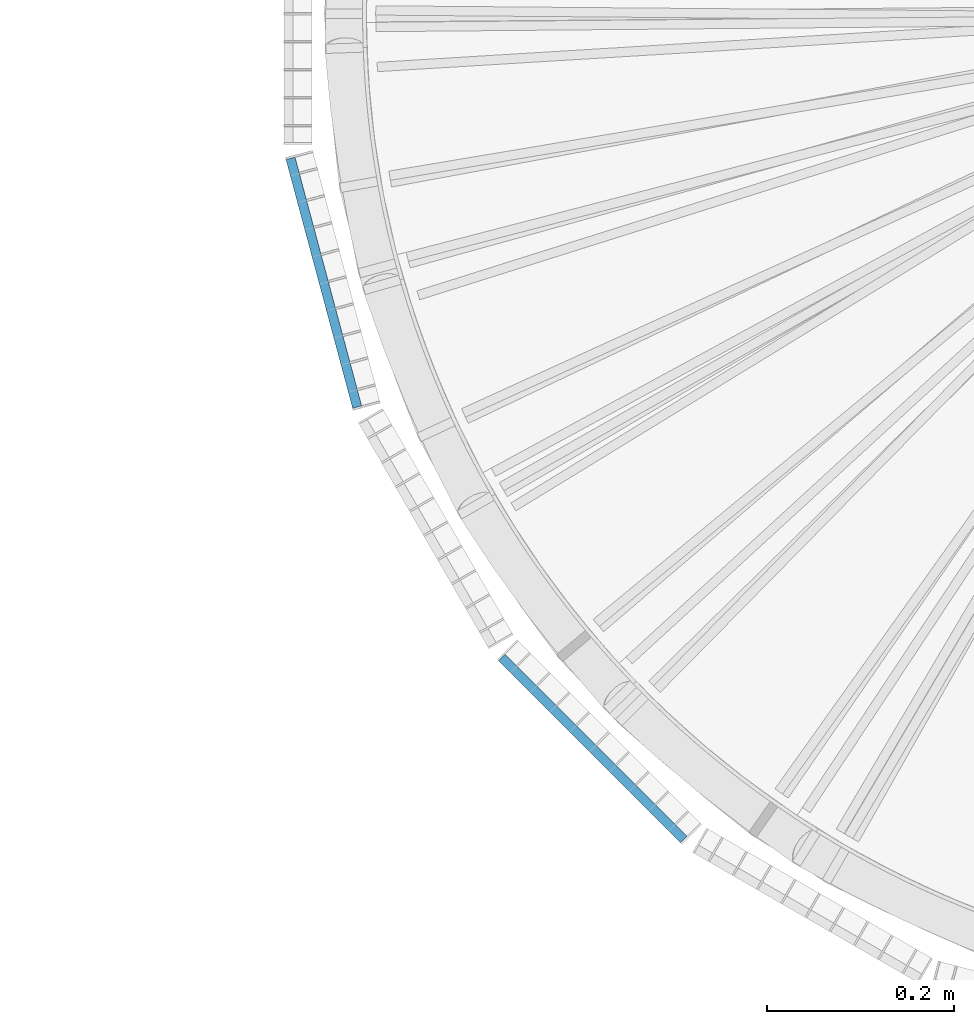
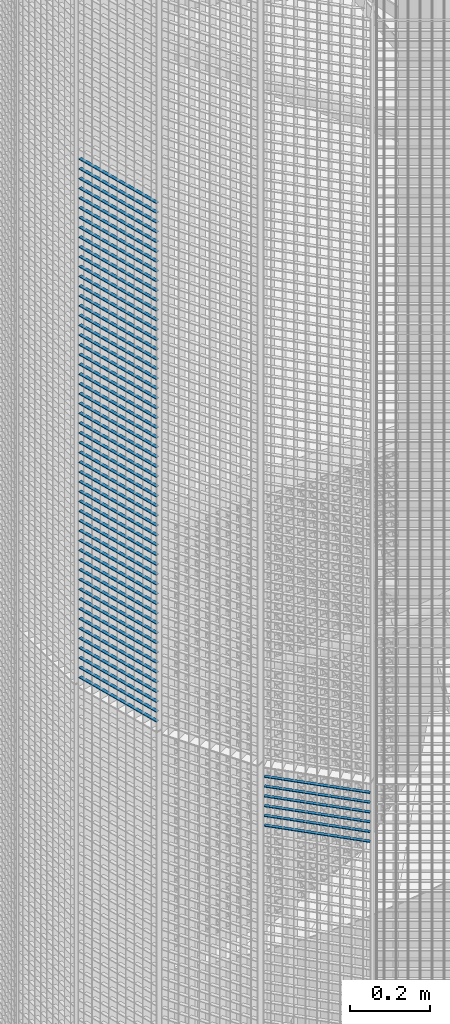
# One storey, part 112 of 1148: 60 beams, 2 elements without a shape of their own.
"""IFC2X3 building model written with IfcOpenShell, lengths in millimetres."""

from ifc_helpers import new_model, si_unit, frame, origin_with_axes, origin_2d_with_axis, place, context, subcontext, project, spatial, rectangle, extrude, material, type_object, element, aggregate, save


model = new_model("IFC2X3")

# Units and contexts
model_context = context("Model", 3, precision=1e-05, world=origin_with_axes())
body_context = subcontext(model_context, "Body", "Model", "MODEL_VIEW")
ifc_project = project(units=[si_unit("LENGTHUNIT", "METRE", prefix="MILLI"), si_unit("AREAUNIT", "SQUARE_METRE"), si_unit("VOLUMEUNIT", "CUBIC_METRE"), si_unit("MASSUNIT", "GRAM", prefix="KILO"), si_unit("TIMEUNIT", "SECOND"), si_unit("PLANEANGLEUNIT", "RADIAN"), si_unit("SOLIDANGLEUNIT", "STERADIAN"), si_unit("THERMODYNAMICTEMPERATUREUNIT", "DEGREE_CELSIUS"), si_unit("LUMINOUSINTENSITYUNIT", "LUMEN")], contexts=[model_context])

# Site, building, storey
site_placement = place(None, origin_with_axes())
site = spatial("IfcSite", under=ifc_project, at=site_placement, Name="Undefined", CompositionType="ELEMENT")
building_placement = place(site_placement, origin_with_axes())
building = spatial("IfcBuilding", under=site, at=building_placement, Name="Undefined", CompositionType="ELEMENT")
storey_placement = place(building_placement, origin_with_axes())
storey = spatial("IfcBuildingStorey", under=building, at=storey_placement, Name="Undefined", CompositionType="ELEMENT", Elevation=0.0)

# Assembly, beams
assembly_1_placement = place(storey_placement, origin_with_axes())
assembly_1 = element("IfcElementAssembly", 1, at=assembly_1_placement, inside=storey, Name="BORDURE", AssemblyPlace="NOTDEFINED", PredefinedType="NOTDEFINED")
ifc_material = material(Name="STEEL/S235JR")
beam_type = type_object("IfcBeamType", Name="PL2*10", PredefinedType="NOTDEFINED")
beam_1_placement = place(assembly_1_placement, frame((-1111.25508286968, -154.895926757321, 13620.0), z_axis=(-0.965925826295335, -0.258819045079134, 0.0), x_axis=(0.258819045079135, -0.965925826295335, 0.0)))
beam_1 = element("IfcBeam", 2, at=beam_1_placement, type_object=beam_type, material=ifc_material, Name="ENTRETOISE", context=body_context, shape_type="SweptSolid", body=[
    extrude(rectangle(XDim=2.0, YDim=10.0, at=origin_2d_with_axis()), frame((275.999999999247, 9.09494701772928e-13, 1.53210777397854e-14), z_axis=(-1.0, 0.0, 0.0), x_axis=(0.0, -1.0, 0.0)), (0.0, 0.0, 1.0), 276.0),
])
beam_2_placement = place(assembly_1_placement, frame((-1111.25508286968, -154.895926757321, 13590.0), z_axis=(-0.965925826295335, -0.258819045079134, 0.0), x_axis=(0.258819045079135, -0.965925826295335, 0.0)))
beam_2 = element("IfcBeam", 3, at=beam_2_placement, type_object=beam_type, material=ifc_material, Name="ENTRETOISE", context=body_context, shape_type="SweptSolid", body=[
    extrude(rectangle(XDim=2.0, YDim=10.0, at=origin_2d_with_axis()), frame((275.999999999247, 9.09494701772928e-13, 1.53210777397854e-14), z_axis=(-1.0, 0.0, 0.0), x_axis=(0.0, -1.0, 0.0)), (0.0, 0.0, 1.0), 276.0),
])
beam_3_placement = place(assembly_1_placement, frame((-1111.25508286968, -154.895926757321, 13560.0), z_axis=(-0.965925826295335, -0.258819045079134, 0.0), x_axis=(0.258819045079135, -0.965925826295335, 0.0)))
beam_3 = element("IfcBeam", 4, at=beam_3_placement, type_object=beam_type, material=ifc_material, Name="ENTRETOISE", context=body_context, shape_type="SweptSolid", body=[
    extrude(rectangle(XDim=2.0, YDim=10.0, at=origin_2d_with_axis()), frame((275.999999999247, 9.09494701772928e-13, 1.53210777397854e-14), z_axis=(-1.0, 0.0, 0.0), x_axis=(0.0, -1.0, 0.0)), (0.0, 0.0, 1.0), 276.0),
])
beam_4_placement = place(assembly_1_placement, frame((-1111.25508286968, -154.895926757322, 13530.0), z_axis=(-0.965925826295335, -0.258819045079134, 0.0), x_axis=(0.258819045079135, -0.965925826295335, 0.0)))
beam_4 = element("IfcBeam", 5, at=beam_4_placement, type_object=beam_type, material=ifc_material, Name="ENTRETOISE", context=body_context, shape_type="SweptSolid", body=[
    extrude(rectangle(XDim=2.0, YDim=10.0, at=origin_2d_with_axis()), frame((275.999999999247, 9.09494701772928e-13, 1.53210777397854e-14), z_axis=(-1.0, 0.0, 0.0), x_axis=(0.0, -1.0, 0.0)), (0.0, 0.0, 1.0), 276.0),
])
beam_5_placement = place(assembly_1_placement, frame((-1111.25508286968, -154.895926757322, 13500.0), z_axis=(-0.965925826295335, -0.258819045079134, 0.0), x_axis=(0.258819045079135, -0.965925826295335, 0.0)))
beam_5 = element("IfcBeam", 6, at=beam_5_placement, type_object=beam_type, material=ifc_material, Name="ENTRETOISE", context=body_context, shape_type="SweptSolid", body=[
    extrude(rectangle(XDim=2.0, YDim=10.0, at=origin_2d_with_axis()), frame((275.999999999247, 9.09494701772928e-13, 1.53210777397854e-14), z_axis=(-1.0, 0.0, 0.0), x_axis=(0.0, -1.0, 0.0)), (0.0, 0.0, 1.0), 276.0),
])
beam_6_placement = place(assembly_1_placement, frame((-1111.25508286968, -154.895926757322, 13470.0), z_axis=(-0.965925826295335, -0.258819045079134, 0.0), x_axis=(0.258819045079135, -0.965925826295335, 0.0)))
beam_6 = element("IfcBeam", 7, at=beam_6_placement, type_object=beam_type, material=ifc_material, Name="ENTRETOISE", context=body_context, shape_type="SweptSolid", body=[
    extrude(rectangle(XDim=2.0, YDim=10.0, at=origin_2d_with_axis()), frame((275.999999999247, 9.09494701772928e-13, 1.53210777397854e-14), z_axis=(-1.0, 0.0, 0.0), x_axis=(0.0, -1.0, 0.0)), (0.0, 0.0, 1.0), 276.0),
])
beam_7_placement = place(assembly_1_placement, frame((-1111.25508286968, -154.895926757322, 13440.0), z_axis=(-0.965925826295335, -0.258819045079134, 0.0), x_axis=(0.258819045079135, -0.965925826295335, 0.0)))
beam_7 = element("IfcBeam", 8, at=beam_7_placement, type_object=beam_type, material=ifc_material, Name="ENTRETOISE", context=body_context, shape_type="SweptSolid", body=[
    extrude(rectangle(XDim=2.0, YDim=10.0, at=origin_2d_with_axis()), frame((275.999999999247, 9.09494701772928e-13, 1.53210777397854e-14), z_axis=(-1.0, 0.0, 0.0), x_axis=(0.0, -1.0, 0.0)), (0.0, 0.0, 1.0), 276.0),
])
beam_8_placement = place(assembly_1_placement, frame((-1111.25508286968, -154.895926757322, 13410.0), z_axis=(-0.965925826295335, -0.258819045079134, 0.0), x_axis=(0.258819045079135, -0.965925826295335, 0.0)))
beam_8 = element("IfcBeam", 9, at=beam_8_placement, type_object=beam_type, material=ifc_material, Name="ENTRETOISE", context=body_context, shape_type="SweptSolid", body=[
    extrude(rectangle(XDim=2.0, YDim=10.0, at=origin_2d_with_axis()), frame((275.999999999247, 9.09494701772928e-13, 1.53210777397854e-14), z_axis=(-1.0, 0.0, 0.0), x_axis=(0.0, -1.0, 0.0)), (0.0, 0.0, 1.0), 276.0),
])
beam_9_placement = place(assembly_1_placement, frame((-1111.25508286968, -154.895926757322, 13380.0), z_axis=(-0.965925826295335, -0.258819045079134, 0.0), x_axis=(0.258819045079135, -0.965925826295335, 0.0)))
beam_9 = element("IfcBeam", 10, at=beam_9_placement, type_object=beam_type, material=ifc_material, Name="ENTRETOISE", context=body_context, shape_type="SweptSolid", body=[
    extrude(rectangle(XDim=2.0, YDim=10.0, at=origin_2d_with_axis()), frame((275.999999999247, 9.09494701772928e-13, 1.53210777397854e-14), z_axis=(-1.0, 0.0, 0.0), x_axis=(0.0, -1.0, 0.0)), (0.0, 0.0, 1.0), 276.0),
])
beam_10_placement = place(assembly_1_placement, frame((-1111.25508286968, -154.895926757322, 13350.0), z_axis=(-0.965925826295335, -0.258819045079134, 0.0), x_axis=(0.258819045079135, -0.965925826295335, 0.0)))
beam_10 = element("IfcBeam", 11, at=beam_10_placement, type_object=beam_type, material=ifc_material, Name="ENTRETOISE", context=body_context, shape_type="SweptSolid", body=[
    extrude(rectangle(XDim=2.0, YDim=10.0, at=origin_2d_with_axis()), frame((275.999999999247, 9.09494701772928e-13, 1.53210777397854e-14), z_axis=(-1.0, 0.0, 0.0), x_axis=(0.0, -1.0, 0.0)), (0.0, 0.0, 1.0), 276.0),
])
beam_11_placement = place(assembly_1_placement, frame((-1111.25508286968, -154.895926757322, 13320.0), z_axis=(-0.965925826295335, -0.258819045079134, 0.0), x_axis=(0.258819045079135, -0.965925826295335, 0.0)))
beam_11 = element("IfcBeam", 12, at=beam_11_placement, type_object=beam_type, material=ifc_material, Name="ENTRETOISE", context=body_context, shape_type="SweptSolid", body=[
    extrude(rectangle(XDim=2.0, YDim=10.0, at=origin_2d_with_axis()), frame((275.999999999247, 9.09494701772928e-13, 1.53210777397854e-14), z_axis=(-1.0, 0.0, 0.0), x_axis=(0.0, -1.0, 0.0)), (0.0, 0.0, 1.0), 276.0),
])
beam_12_placement = place(assembly_1_placement, frame((-1111.25508286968, -154.895926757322, 13290.0), z_axis=(-0.965925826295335, -0.258819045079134, 0.0), x_axis=(0.258819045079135, -0.965925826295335, 0.0)))
beam_12 = element("IfcBeam", 13, at=beam_12_placement, type_object=beam_type, material=ifc_material, Name="ENTRETOISE", context=body_context, shape_type="SweptSolid", body=[
    extrude(rectangle(XDim=2.0, YDim=10.0, at=origin_2d_with_axis()), frame((275.999999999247, 9.09494701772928e-13, 1.53210777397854e-14), z_axis=(-1.0, 0.0, 0.0), x_axis=(0.0, -1.0, 0.0)), (0.0, 0.0, 1.0), 276.0),
])
beam_13_placement = place(assembly_1_placement, frame((-1111.25508286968, -154.895926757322, 13260.0), z_axis=(-0.965925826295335, -0.258819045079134, 0.0), x_axis=(0.258819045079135, -0.965925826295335, 0.0)))
beam_13 = element("IfcBeam", 14, at=beam_13_placement, type_object=beam_type, material=ifc_material, Name="ENTRETOISE", context=body_context, shape_type="SweptSolid", body=[
    extrude(rectangle(XDim=2.0, YDim=10.0, at=origin_2d_with_axis()), frame((275.999999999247, 9.09494701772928e-13, 1.53210777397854e-14), z_axis=(-1.0, 0.0, 0.0), x_axis=(0.0, -1.0, 0.0)), (0.0, 0.0, 1.0), 276.0),
])
beam_14_placement = place(assembly_1_placement, frame((-1111.25508286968, -154.895926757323, 13230.0), z_axis=(-0.965925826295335, -0.258819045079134, 0.0), x_axis=(0.258819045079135, -0.965925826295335, 0.0)))
beam_14 = element("IfcBeam", 15, at=beam_14_placement, type_object=beam_type, material=ifc_material, Name="ENTRETOISE", context=body_context, shape_type="SweptSolid", body=[
    extrude(rectangle(XDim=2.0, YDim=10.0, at=origin_2d_with_axis()), frame((275.999999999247, 9.09494701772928e-13, 1.53210777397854e-14), z_axis=(-1.0, 0.0, 0.0), x_axis=(0.0, -1.0, 0.0)), (0.0, 0.0, 1.0), 276.0),
])
beam_15_placement = place(assembly_1_placement, frame((-1111.25508286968, -154.895926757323, 13200.0), z_axis=(-0.965925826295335, -0.258819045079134, 0.0), x_axis=(0.258819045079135, -0.965925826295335, 0.0)))
beam_15 = element("IfcBeam", 16, at=beam_15_placement, type_object=beam_type, material=ifc_material, Name="ENTRETOISE", context=body_context, shape_type="SweptSolid", body=[
    extrude(rectangle(XDim=2.0, YDim=10.0, at=origin_2d_with_axis()), frame((275.999999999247, 9.09494701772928e-13, 1.53210777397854e-14), z_axis=(-1.0, 0.0, 0.0), x_axis=(0.0, -1.0, 0.0)), (0.0, 0.0, 1.0), 276.0),
])
beam_16_placement = place(assembly_1_placement, frame((-1111.25508286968, -154.895926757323, 13170.0), z_axis=(-0.965925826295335, -0.258819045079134, 0.0), x_axis=(0.258819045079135, -0.965925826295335, 0.0)))
beam_16 = element("IfcBeam", 17, at=beam_16_placement, type_object=beam_type, material=ifc_material, Name="ENTRETOISE", context=body_context, shape_type="SweptSolid", body=[
    extrude(rectangle(XDim=2.0, YDim=10.0, at=origin_2d_with_axis()), frame((275.999999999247, 9.09494701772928e-13, 1.53210777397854e-14), z_axis=(-1.0, 0.0, 0.0), x_axis=(0.0, -1.0, 0.0)), (0.0, 0.0, 1.0), 276.0),
])
beam_17_placement = place(assembly_1_placement, frame((-1111.25508286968, -154.895926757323, 13140.0), z_axis=(-0.965925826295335, -0.258819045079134, 0.0), x_axis=(0.258819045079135, -0.965925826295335, 0.0)))
beam_17 = element("IfcBeam", 18, at=beam_17_placement, type_object=beam_type, material=ifc_material, Name="ENTRETOISE", context=body_context, shape_type="SweptSolid", body=[
    extrude(rectangle(XDim=2.0, YDim=10.0, at=origin_2d_with_axis()), frame((275.999999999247, 9.09494701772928e-13, 1.53210777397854e-14), z_axis=(-1.0, 0.0, 0.0), x_axis=(0.0, -1.0, 0.0)), (0.0, 0.0, 1.0), 276.0),
])
beam_18_placement = place(assembly_1_placement, frame((-1111.25508286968, -154.895926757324, 12720.0), z_axis=(-0.965925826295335, -0.258819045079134, 0.0), x_axis=(0.258819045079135, -0.965925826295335, 0.0)))
beam_18 = element("IfcBeam", 19, at=beam_18_placement, type_object=beam_type, material=ifc_material, Name="ENTRETOISE", context=body_context, shape_type="SweptSolid", body=[
    extrude(rectangle(XDim=2.0, YDim=10.0, at=origin_2d_with_axis()), frame((275.999999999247, 9.09494701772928e-13, 1.53210777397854e-14), z_axis=(-1.0, 0.0, 0.0), x_axis=(0.0, -1.0, 0.0)), (0.0, 0.0, 1.0), 276.0),
])
beam_19_placement = place(assembly_1_placement, frame((-1111.25508286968, -154.895926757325, 12690.0), z_axis=(-0.965925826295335, -0.258819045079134, 0.0), x_axis=(0.258819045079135, -0.965925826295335, 0.0)))
beam_19 = element("IfcBeam", 20, at=beam_19_placement, type_object=beam_type, material=ifc_material, Name="ENTRETOISE", context=body_context, shape_type="SweptSolid", body=[
    extrude(rectangle(XDim=2.0, YDim=10.0, at=origin_2d_with_axis()), frame((275.999999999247, 9.09494701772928e-13, 1.53210777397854e-14), z_axis=(-1.0, 0.0, 0.0), x_axis=(0.0, -1.0, 0.0)), (0.0, 0.0, 1.0), 276.0),
])
beam_20_placement = place(assembly_1_placement, frame((-1111.25508286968, -154.895926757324, 12750.0), z_axis=(-0.965925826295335, -0.258819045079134, 0.0), x_axis=(0.258819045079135, -0.965925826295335, 0.0)))
beam_20 = element("IfcBeam", 21, at=beam_20_placement, type_object=beam_type, material=ifc_material, Name="ENTRETOISE", context=body_context, shape_type="SweptSolid", body=[
    extrude(rectangle(XDim=2.0, YDim=10.0, at=origin_2d_with_axis()), frame((275.999999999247, 9.09494701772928e-13, 1.53210777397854e-14), z_axis=(-1.0, 0.0, 0.0), x_axis=(0.0, -1.0, 0.0)), (0.0, 0.0, 1.0), 276.0),
])
beam_21_placement = place(assembly_1_placement, frame((-1111.25508286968, -154.895926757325, 12660.0), z_axis=(-0.965925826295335, -0.258819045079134, 0.0), x_axis=(0.258819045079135, -0.965925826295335, 0.0)))
beam_21 = element("IfcBeam", 22, at=beam_21_placement, type_object=beam_type, material=ifc_material, Name="ENTRETOISE", context=body_context, shape_type="SweptSolid", body=[
    extrude(rectangle(XDim=2.0, YDim=10.0, at=origin_2d_with_axis()), frame((275.999999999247, 9.09494701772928e-13, 1.53210777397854e-14), z_axis=(-1.0, 0.0, 0.0), x_axis=(0.0, -1.0, 0.0)), (0.0, 0.0, 1.0), 276.0),
])
beam_22_placement = place(assembly_1_placement, frame((-1111.25508286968, -154.895926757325, 12630.0), z_axis=(-0.965925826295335, -0.258819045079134, 0.0), x_axis=(0.258819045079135, -0.965925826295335, 0.0)))
beam_22 = element("IfcBeam", 23, at=beam_22_placement, type_object=beam_type, material=ifc_material, Name="ENTRETOISE", context=body_context, shape_type="SweptSolid", body=[
    extrude(rectangle(XDim=2.0, YDim=10.0, at=origin_2d_with_axis()), frame((275.999999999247, 9.09494701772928e-13, 1.53210777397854e-14), z_axis=(-1.0, 0.0, 0.0), x_axis=(0.0, -1.0, 0.0)), (0.0, 0.0, 1.0), 276.0),
])
beam_23_placement = place(assembly_1_placement, frame((-1111.25508286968, -154.895926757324, 12780.0), z_axis=(-0.965925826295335, -0.258819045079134, 0.0), x_axis=(0.258819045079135, -0.965925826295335, 0.0)))
beam_23 = element("IfcBeam", 24, at=beam_23_placement, type_object=beam_type, material=ifc_material, Name="ENTRETOISE", context=body_context, shape_type="SweptSolid", body=[
    extrude(rectangle(XDim=2.0, YDim=10.0, at=origin_2d_with_axis()), frame((275.999999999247, 9.09494701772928e-13, 1.53210777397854e-14), z_axis=(-1.0, 0.0, 0.0), x_axis=(0.0, -1.0, 0.0)), (0.0, 0.0, 1.0), 276.0),
])
beam_24_placement = place(assembly_1_placement, frame((-1111.25508286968, -154.895926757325, 12600.0), z_axis=(-0.965925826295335, -0.258819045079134, 0.0), x_axis=(0.258819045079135, -0.965925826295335, 0.0)))
beam_24 = element("IfcBeam", 25, at=beam_24_placement, type_object=beam_type, material=ifc_material, Name="ENTRETOISE", context=body_context, shape_type="SweptSolid", body=[
    extrude(rectangle(XDim=2.0, YDim=10.0, at=origin_2d_with_axis()), frame((275.999999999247, 9.09494701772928e-13, 1.53210777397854e-14), z_axis=(-1.0, 0.0, 0.0), x_axis=(0.0, -1.0, 0.0)), (0.0, 0.0, 1.0), 276.0),
])
beam_25_placement = place(assembly_1_placement, frame((-1111.25508286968, -154.895926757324, 12810.0), z_axis=(-0.965925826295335, -0.258819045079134, 0.0), x_axis=(0.258819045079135, -0.965925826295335, 0.0)))
beam_25 = element("IfcBeam", 26, at=beam_25_placement, type_object=beam_type, material=ifc_material, Name="ENTRETOISE", context=body_context, shape_type="SweptSolid", body=[
    extrude(rectangle(XDim=2.0, YDim=10.0, at=origin_2d_with_axis()), frame((275.999999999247, 9.09494701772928e-13, 1.53210777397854e-14), z_axis=(-1.0, 0.0, 0.0), x_axis=(0.0, -1.0, 0.0)), (0.0, 0.0, 1.0), 276.0),
])
beam_26_placement = place(assembly_1_placement, frame((-1111.25508286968, -154.895926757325, 12570.0), z_axis=(-0.965925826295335, -0.258819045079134, 0.0), x_axis=(0.258819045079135, -0.965925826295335, 0.0)))
beam_26 = element("IfcBeam", 27, at=beam_26_placement, type_object=beam_type, material=ifc_material, Name="ENTRETOISE", context=body_context, shape_type="SweptSolid", body=[
    extrude(rectangle(XDim=2.0, YDim=10.0, at=origin_2d_with_axis()), frame((275.999999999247, 9.09494701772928e-13, 1.53210777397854e-14), z_axis=(-1.0, 0.0, 0.0), x_axis=(0.0, -1.0, 0.0)), (0.0, 0.0, 1.0), 276.0),
])
beam_27_placement = place(assembly_1_placement, frame((-1111.25508286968, -154.895926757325, 12540.0), z_axis=(-0.965925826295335, -0.258819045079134, 0.0), x_axis=(0.258819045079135, -0.965925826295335, 0.0)))
beam_27 = element("IfcBeam", 28, at=beam_27_placement, type_object=beam_type, material=ifc_material, Name="ENTRETOISE", context=body_context, shape_type="SweptSolid", body=[
    extrude(rectangle(XDim=2.0, YDim=10.0, at=origin_2d_with_axis()), frame((275.999999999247, 9.09494701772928e-13, 1.53210777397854e-14), z_axis=(-1.0, 0.0, 0.0), x_axis=(0.0, -1.0, 0.0)), (0.0, 0.0, 1.0), 276.0),
])
beam_28_placement = place(assembly_1_placement, frame((-1111.25508286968, -154.895926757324, 12840.0), z_axis=(-0.965925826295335, -0.258819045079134, 0.0), x_axis=(0.258819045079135, -0.965925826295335, 0.0)))
beam_28 = element("IfcBeam", 29, at=beam_28_placement, type_object=beam_type, material=ifc_material, Name="ENTRETOISE", context=body_context, shape_type="SweptSolid", body=[
    extrude(rectangle(XDim=2.0, YDim=10.0, at=origin_2d_with_axis()), frame((275.999999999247, 9.09494701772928e-13, 1.53210777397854e-14), z_axis=(-1.0, 0.0, 0.0), x_axis=(0.0, -1.0, 0.0)), (0.0, 0.0, 1.0), 276.0),
])
beam_29_placement = place(assembly_1_placement, frame((-1111.25508286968, -154.895926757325, 12510.0), z_axis=(-0.965925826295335, -0.258819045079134, 0.0), x_axis=(0.258819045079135, -0.965925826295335, 0.0)))
beam_29 = element("IfcBeam", 30, at=beam_29_placement, type_object=beam_type, material=ifc_material, Name="ENTRETOISE", context=body_context, shape_type="SweptSolid", body=[
    extrude(rectangle(XDim=2.0, YDim=10.0, at=origin_2d_with_axis()), frame((275.999999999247, 9.09494701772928e-13, 1.53210777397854e-14), z_axis=(-1.0, 0.0, 0.0), x_axis=(0.0, -1.0, 0.0)), (0.0, 0.0, 1.0), 276.0),
])
beam_30_placement = place(assembly_1_placement, frame((-1111.25508286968, -154.895926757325, 12480.0), z_axis=(-0.965925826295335, -0.258819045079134, 0.0), x_axis=(0.258819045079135, -0.965925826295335, 0.0)))
beam_30 = element("IfcBeam", 31, at=beam_30_placement, type_object=beam_type, material=ifc_material, Name="ENTRETOISE", context=body_context, shape_type="SweptSolid", body=[
    extrude(rectangle(XDim=2.0, YDim=10.0, at=origin_2d_with_axis()), frame((275.999999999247, 9.09494701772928e-13, 1.53210777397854e-14), z_axis=(-1.0, 0.0, 0.0), x_axis=(0.0, -1.0, 0.0)), (0.0, 0.0, 1.0), 276.0),
])
beam_31_placement = place(assembly_1_placement, frame((-1111.25508286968, -154.895926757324, 12870.0), z_axis=(-0.965925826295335, -0.258819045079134, 0.0), x_axis=(0.258819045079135, -0.965925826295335, 0.0)))
beam_31 = element("IfcBeam", 32, at=beam_31_placement, type_object=beam_type, material=ifc_material, Name="ENTRETOISE", context=body_context, shape_type="SweptSolid", body=[
    extrude(rectangle(XDim=2.0, YDim=10.0, at=origin_2d_with_axis()), frame((275.999999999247, 9.09494701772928e-13, 1.53210777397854e-14), z_axis=(-1.0, 0.0, 0.0), x_axis=(0.0, -1.0, 0.0)), (0.0, 0.0, 1.0), 276.0),
])
beam_32_placement = place(assembly_1_placement, frame((-1111.25508286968, -154.895926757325, 12450.0), z_axis=(-0.965925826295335, -0.258819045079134, 0.0), x_axis=(0.258819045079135, -0.965925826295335, 0.0)))
beam_32 = element("IfcBeam", 33, at=beam_32_placement, type_object=beam_type, material=ifc_material, Name="ENTRETOISE", context=body_context, shape_type="SweptSolid", body=[
    extrude(rectangle(XDim=2.0, YDim=10.0, at=origin_2d_with_axis()), frame((275.999999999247, 9.09494701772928e-13, 1.53210777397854e-14), z_axis=(-1.0, 0.0, 0.0), x_axis=(0.0, -1.0, 0.0)), (0.0, 0.0, 1.0), 276.0),
])
beam_33_placement = place(assembly_1_placement, frame((-1111.25508286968, -154.895926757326, 12420.0), z_axis=(-0.965925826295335, -0.258819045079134, 0.0), x_axis=(0.258819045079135, -0.965925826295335, 0.0)))
beam_33 = element("IfcBeam", 34, at=beam_33_placement, type_object=beam_type, material=ifc_material, Name="ENTRETOISE", context=body_context, shape_type="SweptSolid", body=[
    extrude(rectangle(XDim=2.0, YDim=10.0, at=origin_2d_with_axis()), frame((275.999999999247, 9.09494701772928e-13, 1.53210777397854e-14), z_axis=(-1.0, 0.0, 0.0), x_axis=(0.0, -1.0, 0.0)), (0.0, 0.0, 1.0), 276.0),
])
beam_34_placement = place(assembly_1_placement, frame((-1111.25508286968, -154.895926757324, 12900.0), z_axis=(-0.965925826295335, -0.258819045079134, 0.0), x_axis=(0.258819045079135, -0.965925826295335, 0.0)))
beam_34 = element("IfcBeam", 35, at=beam_34_placement, type_object=beam_type, material=ifc_material, Name="ENTRETOISE", context=body_context, shape_type="SweptSolid", body=[
    extrude(rectangle(XDim=2.0, YDim=10.0, at=origin_2d_with_axis()), frame((275.999999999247, 9.09494701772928e-13, 1.53210777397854e-14), z_axis=(-1.0, 0.0, 0.0), x_axis=(0.0, -1.0, 0.0)), (0.0, 0.0, 1.0), 276.0),
])
beam_35_placement = place(assembly_1_placement, frame((-1111.25508286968, -154.895926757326, 12390.0), z_axis=(-0.965925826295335, -0.258819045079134, 0.0), x_axis=(0.258819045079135, -0.965925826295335, 0.0)))
beam_35 = element("IfcBeam", 36, at=beam_35_placement, type_object=beam_type, material=ifc_material, Name="ENTRETOISE", context=body_context, shape_type="SweptSolid", body=[
    extrude(rectangle(XDim=2.0, YDim=10.0, at=origin_2d_with_axis()), frame((275.999999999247, 9.09494701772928e-13, 1.53210777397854e-14), z_axis=(-1.0, 0.0, 0.0), x_axis=(0.0, -1.0, 0.0)), (0.0, 0.0, 1.0), 276.0),
])
beam_36_placement = place(assembly_1_placement, frame((-1111.25508286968, -154.895926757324, 12930.0), z_axis=(-0.965925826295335, -0.258819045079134, 0.0), x_axis=(0.258819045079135, -0.965925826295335, 0.0)))
beam_36 = element("IfcBeam", 37, at=beam_36_placement, type_object=beam_type, material=ifc_material, Name="ENTRETOISE", context=body_context, shape_type="SweptSolid", body=[
    extrude(rectangle(XDim=2.0, YDim=10.0, at=origin_2d_with_axis()), frame((275.999999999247, 9.09494701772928e-13, 1.53210777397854e-14), z_axis=(-1.0, 0.0, 0.0), x_axis=(0.0, -1.0, 0.0)), (0.0, 0.0, 1.0), 276.0),
])
beam_37_placement = place(assembly_1_placement, frame((-1111.25508286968, -154.895926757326, 12360.0), z_axis=(-0.965925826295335, -0.258819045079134, 0.0), x_axis=(0.258819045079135, -0.965925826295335, 0.0)))
beam_37 = element("IfcBeam", 38, at=beam_37_placement, type_object=beam_type, material=ifc_material, Name="ENTRETOISE", context=body_context, shape_type="SweptSolid", body=[
    extrude(rectangle(XDim=2.0, YDim=10.0, at=origin_2d_with_axis()), frame((275.999999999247, 9.09494701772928e-13, 1.53210777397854e-14), z_axis=(-1.0, 0.0, 0.0), x_axis=(0.0, -1.0, 0.0)), (0.0, 0.0, 1.0), 276.0),
])
beam_38_placement = place(assembly_1_placement, frame((-1111.25508286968, -154.895926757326, 12330.0), z_axis=(-0.965925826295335, -0.258819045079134, 0.0), x_axis=(0.258819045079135, -0.965925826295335, 0.0)))
beam_38 = element("IfcBeam", 39, at=beam_38_placement, type_object=beam_type, material=ifc_material, Name="ENTRETOISE", context=body_context, shape_type="SweptSolid", body=[
    extrude(rectangle(XDim=2.0, YDim=10.0, at=origin_2d_with_axis()), frame((275.999999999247, 9.09494701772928e-13, 1.53210777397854e-14), z_axis=(-1.0, 0.0, 0.0), x_axis=(0.0, -1.0, 0.0)), (0.0, 0.0, 1.0), 276.0),
])
beam_39_placement = place(assembly_1_placement, frame((-1111.25508286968, -154.895926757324, 12960.0), z_axis=(-0.965925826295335, -0.258819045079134, 0.0), x_axis=(0.258819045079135, -0.965925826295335, 0.0)))
beam_39 = element("IfcBeam", 40, at=beam_39_placement, type_object=beam_type, material=ifc_material, Name="ENTRETOISE", context=body_context, shape_type="SweptSolid", body=[
    extrude(rectangle(XDim=2.0, YDim=10.0, at=origin_2d_with_axis()), frame((275.999999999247, 9.09494701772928e-13, 1.53210777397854e-14), z_axis=(-1.0, 0.0, 0.0), x_axis=(0.0, -1.0, 0.0)), (0.0, 0.0, 1.0), 276.0),
])
beam_40_placement = place(assembly_1_placement, frame((-1111.25508286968, -154.895926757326, 12300.0), z_axis=(-0.965925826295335, -0.258819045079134, 0.0), x_axis=(0.258819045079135, -0.965925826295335, 0.0)))
beam_40 = element("IfcBeam", 41, at=beam_40_placement, type_object=beam_type, material=ifc_material, Name="ENTRETOISE", context=body_context, shape_type="SweptSolid", body=[
    extrude(rectangle(XDim=2.0, YDim=10.0, at=origin_2d_with_axis()), frame((275.999999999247, 9.09494701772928e-13, 1.53210777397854e-14), z_axis=(-1.0, 0.0, 0.0), x_axis=(0.0, -1.0, 0.0)), (0.0, 0.0, 1.0), 276.0),
])
beam_41_placement = place(assembly_1_placement, frame((-1111.25508286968, -154.895926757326, 12270.0), z_axis=(-0.965925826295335, -0.258819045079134, 0.0), x_axis=(0.258819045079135, -0.965925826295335, 0.0)))
beam_41 = element("IfcBeam", 42, at=beam_41_placement, type_object=beam_type, material=ifc_material, Name="ENTRETOISE", context=body_context, shape_type="SweptSolid", body=[
    extrude(rectangle(XDim=2.0, YDim=10.0, at=origin_2d_with_axis()), frame((275.999999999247, 9.09494701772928e-13, 1.53210777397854e-14), z_axis=(-1.0, 0.0, 0.0), x_axis=(0.0, -1.0, 0.0)), (0.0, 0.0, 1.0), 276.0),
])
beam_42_placement = place(assembly_1_placement, frame((-1111.25508286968, -154.895926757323, 12990.0), z_axis=(-0.965925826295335, -0.258819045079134, 0.0), x_axis=(0.258819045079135, -0.965925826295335, 0.0)))
beam_42 = element("IfcBeam", 43, at=beam_42_placement, type_object=beam_type, material=ifc_material, Name="ENTRETOISE", context=body_context, shape_type="SweptSolid", body=[
    extrude(rectangle(XDim=2.0, YDim=10.0, at=origin_2d_with_axis()), frame((275.999999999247, 9.09494701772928e-13, 1.53210777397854e-14), z_axis=(-1.0, 0.0, 0.0), x_axis=(0.0, -1.0, 0.0)), (0.0, 0.0, 1.0), 276.0),
])
beam_43_placement = place(assembly_1_placement, frame((-1111.25508286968, -154.895926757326, 12240.0), z_axis=(-0.965925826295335, -0.258819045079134, 0.0), x_axis=(0.258819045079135, -0.965925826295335, 0.0)))
beam_43 = element("IfcBeam", 44, at=beam_43_placement, type_object=beam_type, material=ifc_material, Name="ENTRETOISE", context=body_context, shape_type="SweptSolid", body=[
    extrude(rectangle(XDim=2.0, YDim=10.0, at=origin_2d_with_axis()), frame((275.999999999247, 9.09494701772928e-13, 1.53210777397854e-14), z_axis=(-1.0, 0.0, 0.0), x_axis=(0.0, -1.0, 0.0)), (0.0, 0.0, 1.0), 276.0),
])
beam_44_placement = place(assembly_1_placement, frame((-1111.25508286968, -154.895926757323, 13020.0), z_axis=(-0.965925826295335, -0.258819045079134, 0.0), x_axis=(0.258819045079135, -0.965925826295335, 0.0)))
beam_44 = element("IfcBeam", 45, at=beam_44_placement, type_object=beam_type, material=ifc_material, Name="ENTRETOISE", context=body_context, shape_type="SweptSolid", body=[
    extrude(rectangle(XDim=2.0, YDim=10.0, at=origin_2d_with_axis()), frame((275.999999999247, 9.09494701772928e-13, 1.53210777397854e-14), z_axis=(-1.0, 0.0, 0.0), x_axis=(0.0, -1.0, 0.0)), (0.0, 0.0, 1.0), 276.0),
])
beam_45_placement = place(assembly_1_placement, frame((-1111.25508286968, -154.895926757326, 12210.0), z_axis=(-0.965925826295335, -0.258819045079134, 0.0), x_axis=(0.258819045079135, -0.965925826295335, 0.0)))
beam_45 = element("IfcBeam", 46, at=beam_45_placement, type_object=beam_type, material=ifc_material, Name="ENTRETOISE", context=body_context, shape_type="SweptSolid", body=[
    extrude(rectangle(XDim=2.0, YDim=10.0, at=origin_2d_with_axis()), frame((275.999999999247, 9.09494701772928e-13, 1.53210777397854e-14), z_axis=(-1.0, 0.0, 0.0), x_axis=(0.0, -1.0, 0.0)), (0.0, 0.0, 1.0), 276.0),
])
beam_46_placement = place(assembly_1_placement, frame((-1111.25508286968, -154.895926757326, 12180.0), z_axis=(-0.965925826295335, -0.258819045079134, 0.0), x_axis=(0.258819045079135, -0.965925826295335, 0.0)))
beam_46 = element("IfcBeam", 47, at=beam_46_placement, type_object=beam_type, material=ifc_material, Name="ENTRETOISE", context=body_context, shape_type="SweptSolid", body=[
    extrude(rectangle(XDim=2.0, YDim=10.0, at=origin_2d_with_axis()), frame((275.999999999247, 9.09494701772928e-13, 1.53210777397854e-14), z_axis=(-1.0, 0.0, 0.0), x_axis=(0.0, -1.0, 0.0)), (0.0, 0.0, 1.0), 276.0),
])
beam_47_placement = place(assembly_1_placement, frame((-1111.25508286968, -154.895926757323, 13050.0), z_axis=(-0.965925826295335, -0.258819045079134, 0.0), x_axis=(0.258819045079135, -0.965925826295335, 0.0)))
beam_47 = element("IfcBeam", 48, at=beam_47_placement, type_object=beam_type, material=ifc_material, Name="ENTRETOISE", context=body_context, shape_type="SweptSolid", body=[
    extrude(rectangle(XDim=2.0, YDim=10.0, at=origin_2d_with_axis()), frame((275.999999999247, 9.09494701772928e-13, 1.53210777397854e-14), z_axis=(-1.0, 0.0, 0.0), x_axis=(0.0, -1.0, 0.0)), (0.0, 0.0, 1.0), 276.0),
])
beam_48_placement = place(assembly_1_placement, frame((-1111.25508286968, -154.895926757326, 12150.0), z_axis=(-0.965925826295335, -0.258819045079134, 0.0), x_axis=(0.258819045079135, -0.965925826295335, 0.0)))
beam_48 = element("IfcBeam", 49, at=beam_48_placement, type_object=beam_type, material=ifc_material, Name="ENTRETOISE", context=body_context, shape_type="SweptSolid", body=[
    extrude(rectangle(XDim=2.0, YDim=10.0, at=origin_2d_with_axis()), frame((275.999999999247, 9.09494701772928e-13, 1.53210777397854e-14), z_axis=(-1.0, 0.0, 0.0), x_axis=(0.0, -1.0, 0.0)), (0.0, 0.0, 1.0), 276.0),
])
beam_49_placement = place(assembly_1_placement, frame((-1111.25508286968, -154.895926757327, 12120.0), z_axis=(-0.965925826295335, -0.258819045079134, 0.0), x_axis=(0.258819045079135, -0.965925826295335, 0.0)))
beam_49 = element("IfcBeam", 50, at=beam_49_placement, type_object=beam_type, material=ifc_material, Name="ENTRETOISE", context=body_context, shape_type="SweptSolid", body=[
    extrude(rectangle(XDim=2.0, YDim=10.0, at=origin_2d_with_axis()), frame((275.999999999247, 9.09494701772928e-13, 1.53210777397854e-14), z_axis=(-1.0, 0.0, 0.0), x_axis=(0.0, -1.0, 0.0)), (0.0, 0.0, 1.0), 276.0),
])
beam_50_placement = place(assembly_1_placement, frame((-1111.25508286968, -154.895926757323, 13080.0), z_axis=(-0.965925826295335, -0.258819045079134, 0.0), x_axis=(0.258819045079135, -0.965925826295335, 0.0)))
beam_50 = element("IfcBeam", 51, at=beam_50_placement, type_object=beam_type, material=ifc_material, Name="ENTRETOISE", context=body_context, shape_type="SweptSolid", body=[
    extrude(rectangle(XDim=2.0, YDim=10.0, at=origin_2d_with_axis()), frame((275.999999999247, 9.09494701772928e-13, 1.53210777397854e-14), z_axis=(-1.0, 0.0, 0.0), x_axis=(0.0, -1.0, 0.0)), (0.0, 0.0, 1.0), 276.0),
])
beam_51_placement = place(assembly_1_placement, frame((-1111.25508286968, -154.895926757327, 12090.0), z_axis=(-0.965925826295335, -0.258819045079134, 0.0), x_axis=(0.258819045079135, -0.965925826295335, 0.0)))
beam_51 = element("IfcBeam", 52, at=beam_51_placement, type_object=beam_type, material=ifc_material, Name="ENTRETOISE", context=body_context, shape_type="SweptSolid", body=[
    extrude(rectangle(XDim=2.0, YDim=10.0, at=origin_2d_with_axis()), frame((275.999999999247, 9.09494701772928e-13, 1.53210777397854e-14), z_axis=(-1.0, 0.0, 0.0), x_axis=(0.0, -1.0, 0.0)), (0.0, 0.0, 1.0), 276.0),
])
beam_52_placement = place(assembly_1_placement, frame((-1111.25508286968, -154.895926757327, 12060.0), z_axis=(-0.965925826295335, -0.258819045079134, 0.0), x_axis=(0.258819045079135, -0.965925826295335, 0.0)))
beam_52 = element("IfcBeam", 53, at=beam_52_placement, type_object=beam_type, material=ifc_material, Name="ENTRETOISE", context=body_context, shape_type="SweptSolid", body=[
    extrude(rectangle(XDim=2.0, YDim=10.0, at=origin_2d_with_axis()), frame((275.999999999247, 9.09494701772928e-13, 1.53210777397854e-14), z_axis=(-1.0, 0.0, 0.0), x_axis=(0.0, -1.0, 0.0)), (0.0, 0.0, 1.0), 276.0),
])
beam_53_placement = place(assembly_1_placement, frame((-1111.25508286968, -154.895926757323, 13110.0), z_axis=(-0.965925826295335, -0.258819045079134, 0.0), x_axis=(0.258819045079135, -0.965925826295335, 0.0)))
beam_53 = element("IfcBeam", 54, at=beam_53_placement, type_object=beam_type, material=ifc_material, Name="ENTRETOISE", context=body_context, shape_type="SweptSolid", body=[
    extrude(rectangle(XDim=2.0, YDim=10.0, at=origin_2d_with_axis()), frame((275.999999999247, 9.09494701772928e-13, 1.53210777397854e-14), z_axis=(-1.0, 0.0, 0.0), x_axis=(0.0, -1.0, 0.0)), (0.0, 0.0, 1.0), 276.0),
])
beam_54_placement = place(assembly_1_placement, frame((-1111.25508286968, -154.895926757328, 12030.0), z_axis=(-0.965925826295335, -0.258819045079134, 0.0), x_axis=(0.258819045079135, -0.965925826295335, 0.0)))
beam_54 = element("IfcBeam", 55, at=beam_54_placement, type_object=beam_type, material=ifc_material, Name="ENTRETOISE", context=body_context, shape_type="SweptSolid", body=[
    extrude(rectangle(XDim=2.0, YDim=10.0, at=origin_2d_with_axis()), frame((275.999999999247, 9.09494701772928e-13, 1.53210777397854e-14), z_axis=(-1.0, 0.0, 0.0), x_axis=(0.0, -1.0, 0.0)), (0.0, 0.0, 1.0), 276.0),
])
aggregate(assembly_1, [beam_1, beam_2, beam_3, beam_4, beam_5, beam_6, beam_7, beam_8, beam_9, beam_10, beam_11, beam_12, beam_13, beam_14, beam_15, beam_16, beam_17, beam_18, beam_19, beam_20, beam_21, beam_22, beam_23, beam_24, beam_25, beam_26, beam_27, beam_28, beam_29, beam_30, beam_31, beam_32, beam_33, beam_34, beam_35, beam_36, beam_37, beam_38, beam_39, beam_40, beam_41, beam_42, beam_43, beam_44, beam_45, beam_46, beam_47, beam_48, beam_49, beam_50, beam_51, beam_52, beam_53, beam_54])

assembly_2_placement = place(storey_placement, origin_with_axes())
assembly_2 = element("IfcElementAssembly", 56, at=assembly_2_placement, inside=storey, Name="BORDURE", AssemblyPlace="NOTDEFINED", PredefinedType="NOTDEFINED")
beam_55_placement = place(assembly_2_placement, frame((-884.927168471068, -689.771348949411, 11970.0), z_axis=(-0.70710678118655, -0.707106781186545, 0.0), x_axis=(0.707106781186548, -0.707106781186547, 0.0)))
beam_55 = element("IfcBeam", 57, at=beam_55_placement, type_object=beam_type, material=ifc_material, Name="ENTRETOISE", context=body_context, shape_type="SweptSolid", body=[
    extrude(rectangle(XDim=2.0, YDim=10.0, at=origin_2d_with_axis()), frame((275.999999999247, 9.09494701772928e-13, 1.53210777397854e-14), z_axis=(-1.0, 0.0, 0.0), x_axis=(0.0, -1.0, 0.0)), (0.0, 0.0, 1.0), 276.0),
])
beam_56_placement = place(assembly_2_placement, frame((-884.927168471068, -689.771348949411, 11940.0), z_axis=(-0.70710678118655, -0.707106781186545, 0.0), x_axis=(0.707106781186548, -0.707106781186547, 0.0)))
beam_56 = element("IfcBeam", 58, at=beam_56_placement, type_object=beam_type, material=ifc_material, Name="ENTRETOISE", context=body_context, shape_type="SweptSolid", body=[
    extrude(rectangle(XDim=2.0, YDim=10.0, at=origin_2d_with_axis()), frame((275.999999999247, 9.09494701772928e-13, 1.53210777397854e-14), z_axis=(-1.0, 0.0, 0.0), x_axis=(0.0, -1.0, 0.0)), (0.0, 0.0, 1.0), 276.0),
])
beam_57_placement = place(assembly_2_placement, frame((-884.927168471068, -689.771348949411, 11910.0), z_axis=(-0.70710678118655, -0.707106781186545, 0.0), x_axis=(0.707106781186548, -0.707106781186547, 0.0)))
beam_57 = element("IfcBeam", 59, at=beam_57_placement, type_object=beam_type, material=ifc_material, Name="ENTRETOISE", context=body_context, shape_type="SweptSolid", body=[
    extrude(rectangle(XDim=2.0, YDim=10.0, at=origin_2d_with_axis()), frame((275.999999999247, 9.09494701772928e-13, 1.53210777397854e-14), z_axis=(-1.0, 0.0, 0.0), x_axis=(0.0, -1.0, 0.0)), (0.0, 0.0, 1.0), 276.0),
])
beam_58_placement = place(assembly_2_placement, frame((-884.927168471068, -689.771348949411, 11880.0), z_axis=(-0.70710678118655, -0.707106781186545, 0.0), x_axis=(0.707106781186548, -0.707106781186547, 0.0)))
beam_58 = element("IfcBeam", 60, at=beam_58_placement, type_object=beam_type, material=ifc_material, Name="ENTRETOISE", context=body_context, shape_type="SweptSolid", body=[
    extrude(rectangle(XDim=2.0, YDim=10.0, at=origin_2d_with_axis()), frame((275.999999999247, 9.09494701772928e-13, 1.53210777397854e-14), z_axis=(-1.0, 0.0, 0.0), x_axis=(0.0, -1.0, 0.0)), (0.0, 0.0, 1.0), 276.0),
])
beam_59_placement = place(assembly_2_placement, frame((-884.927168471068, -689.771348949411, 11850.0), z_axis=(-0.70710678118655, -0.707106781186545, 0.0), x_axis=(0.707106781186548, -0.707106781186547, 0.0)))
beam_59 = element("IfcBeam", 61, at=beam_59_placement, type_object=beam_type, material=ifc_material, Name="ENTRETOISE", context=body_context, shape_type="SweptSolid", body=[
    extrude(rectangle(XDim=2.0, YDim=10.0, at=origin_2d_with_axis()), frame((275.999999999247, 9.09494701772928e-13, 1.53210777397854e-14), z_axis=(-1.0, 0.0, 0.0), x_axis=(0.0, -1.0, 0.0)), (0.0, 0.0, 1.0), 276.0),
])
beam_60_placement = place(assembly_2_placement, frame((-884.927168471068, -689.771348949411, 11820.0), z_axis=(-0.70710678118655, -0.707106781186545, 0.0), x_axis=(0.707106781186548, -0.707106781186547, 0.0)))
beam_60 = element("IfcBeam", 62, at=beam_60_placement, type_object=beam_type, material=ifc_material, Name="ENTRETOISE", context=body_context, shape_type="SweptSolid", body=[
    extrude(rectangle(XDim=2.0, YDim=10.0, at=origin_2d_with_axis()), frame((275.999999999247, 9.09494701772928e-13, 1.53210777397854e-14), z_axis=(-1.0, 0.0, 0.0), x_axis=(0.0, -1.0, 0.0)), (0.0, 0.0, 1.0), 276.0),
])
aggregate(assembly_2, [beam_55, beam_56, beam_57, beam_58, beam_59, beam_60])

save(model, "model.ifc")
